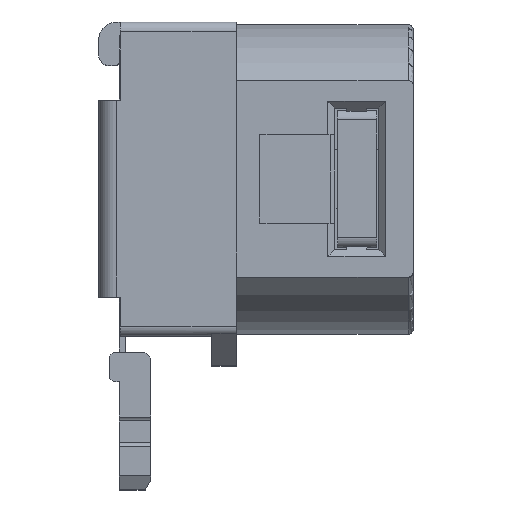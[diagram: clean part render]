
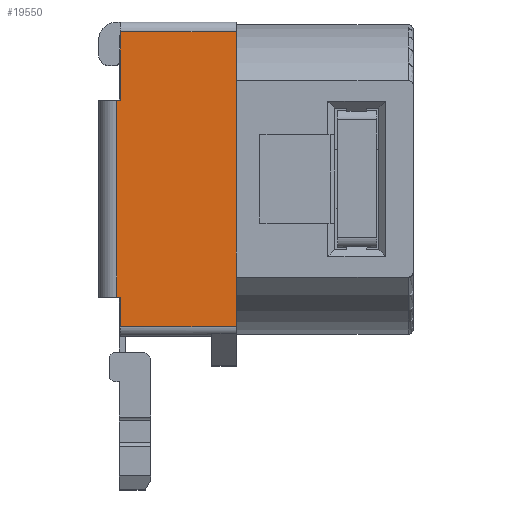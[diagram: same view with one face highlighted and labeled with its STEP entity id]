
A CAD part, top view. The second image highlights one B-rep face of the part: STEP entity #19550.
In plain terms, the highlighted planar face has unit normal (0, 0, 1).
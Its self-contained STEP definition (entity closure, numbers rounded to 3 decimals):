
#2490=FACE_OUTER_BOUND('',#3500,.T.);
#3500=EDGE_LOOP('',(#17083,#17084,#17085,#17086,#17087,#17088,#17089,#17090,
#17091,#17092));
#5566=LINE('',#30883,#7791);
#5588=LINE('',#30941,#7813);
#5624=LINE('',#31050,#7849);
#5625=LINE('',#31053,#7850);
#5626=LINE('',#31055,#7851);
#5627=LINE('',#31056,#7852);
#5628=LINE('',#31058,#7853);
#5629=LINE('',#31060,#7854);
#5630=LINE('',#31062,#7855);
#5631=LINE('',#31063,#7856);
#7791=VECTOR('',#25196,10.);
#7813=VECTOR('',#25250,10.);
#7849=VECTOR('',#25356,10.);
#7850=VECTOR('',#25359,10.);
#7851=VECTOR('',#25360,10.);
#7852=VECTOR('',#25361,10.);
#7853=VECTOR('',#25362,10.);
#7854=VECTOR('',#25363,10.);
#7855=VECTOR('',#25364,10.);
#7856=VECTOR('',#25365,10.);
#9621=VERTEX_POINT('',#30880);
#9622=VERTEX_POINT('',#30882);
#9641=VERTEX_POINT('',#30938);
#9642=VERTEX_POINT('',#30940);
#9680=VERTEX_POINT('',#31048);
#9681=VERTEX_POINT('',#31052);
#9682=VERTEX_POINT('',#31054);
#9683=VERTEX_POINT('',#31057);
#9684=VERTEX_POINT('',#31059);
#9685=VERTEX_POINT('',#31061);
#12141=EDGE_CURVE('',#9621,#9622,#5566,.T.);
#12170=EDGE_CURVE('',#9642,#9641,#5588,.T.);
#12225=EDGE_CURVE('',#9680,#9641,#5624,.T.);
#12226=EDGE_CURVE('',#9681,#9680,#5625,.T.);
#12227=EDGE_CURVE('',#9682,#9681,#5626,.T.);
#12228=EDGE_CURVE('',#9682,#9622,#5627,.T.);
#12229=EDGE_CURVE('',#9683,#9621,#5628,.T.);
#12230=EDGE_CURVE('',#9684,#9683,#5629,.T.);
#12231=EDGE_CURVE('',#9685,#9684,#5630,.T.);
#12232=EDGE_CURVE('',#9642,#9685,#5631,.T.);
#17083=ORIENTED_EDGE('',*,*,#12225,.F.);
#17084=ORIENTED_EDGE('',*,*,#12226,.F.);
#17085=ORIENTED_EDGE('',*,*,#12227,.F.);
#17086=ORIENTED_EDGE('',*,*,#12228,.T.);
#17087=ORIENTED_EDGE('',*,*,#12141,.F.);
#17088=ORIENTED_EDGE('',*,*,#12229,.F.);
#17089=ORIENTED_EDGE('',*,*,#12230,.F.);
#17090=ORIENTED_EDGE('',*,*,#12231,.F.);
#17091=ORIENTED_EDGE('',*,*,#12232,.F.);
#17092=ORIENTED_EDGE('',*,*,#12170,.T.);
#18650=PLANE('',#20892);
#19550=ADVANCED_FACE('',(#2490),#18650,.T.);
#20892=AXIS2_PLACEMENT_3D('',#31051,#25357,#25358);
#25196=DIRECTION('',(0.,-1.,0.));
#25250=DIRECTION('',(-1.,0.,0.));
#25356=DIRECTION('',(0.,1.,0.));
#25357=DIRECTION('center_axis',(0.,0.,1.));
#25358=DIRECTION('ref_axis',(0.,-1.,0.));
#25359=DIRECTION('',(-1.,0.,0.));
#25360=DIRECTION('',(0.,1.,0.));
#25361=DIRECTION('',(1.,0.,0.));
#25362=DIRECTION('',(0.,-1.,0.));
#25363=DIRECTION('',(0.,-1.,0.));
#25364=DIRECTION('',(1.,0.,0.));
#25365=DIRECTION('',(0.,1.,0.));
#30880=CARTESIAN_POINT('',(-4.8,-5.,8.));
#30882=CARTESIAN_POINT('',(-4.8,-7.5,8.));
#30883=CARTESIAN_POINT('',(-4.8,7.5,8.));
#30938=CARTESIAN_POINT('',(-10.9,4.,8.));
#30940=CARTESIAN_POINT('',(-10.7,4.,8.));
#30941=CARTESIAN_POINT('',(-10.7,4.,8.));
#31048=CARTESIAN_POINT('',(-10.9,-6.,8.));
#31050=CARTESIAN_POINT('',(-10.9,3.25,8.));
#31051=CARTESIAN_POINT('Origin',(-6.05,7.5,8.));
#31052=CARTESIAN_POINT('',(-10.7,-6.,8.));
#31053=CARTESIAN_POINT('',(-10.75,-6.,8.));
#31054=CARTESIAN_POINT('',(-10.7,-7.5,8.));
#31055=CARTESIAN_POINT('',(-10.7,-7.5,8.));
#31056=CARTESIAN_POINT('',(-6.05,-7.5,8.));
#31057=CARTESIAN_POINT('',(-4.8,5.,8.));
#31058=CARTESIAN_POINT('',(-4.8,7.5,8.));
#31059=CARTESIAN_POINT('',(-4.8,7.5,8.));
#31060=CARTESIAN_POINT('',(-4.8,7.5,8.));
#31061=CARTESIAN_POINT('',(-10.7,7.5,8.));
#31062=CARTESIAN_POINT('',(-6.05,7.5,8.));
#31063=CARTESIAN_POINT('',(-10.7,-7.5,8.));
